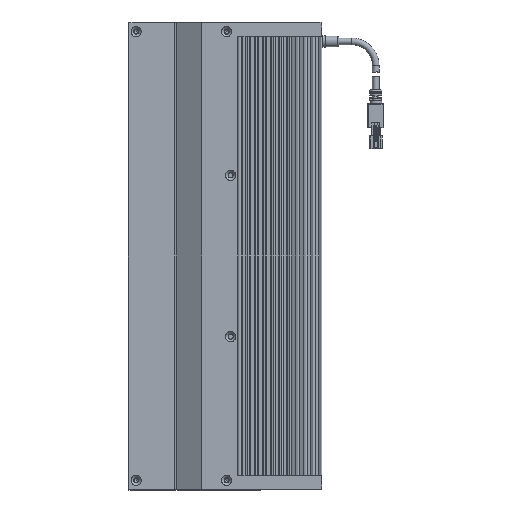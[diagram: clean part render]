
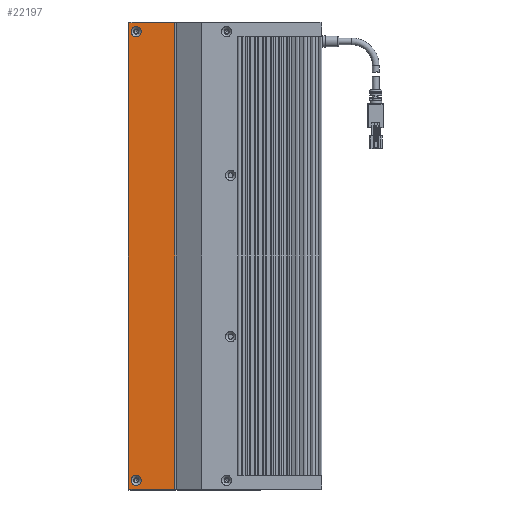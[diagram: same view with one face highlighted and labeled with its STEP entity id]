
A CAD part, left-side view. The second image highlights one B-rep face of the part: STEP entity #22197.
In plain terms, the highlighted planar face has unit normal (-1, 0, 0).
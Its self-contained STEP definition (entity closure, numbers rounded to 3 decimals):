
#766 = VECTOR ( 'NONE', #28042, 1000. ) ;
#860 = LINE ( 'NONE', #27099, #15810 ) ;
#951 = EDGE_CURVE ( 'NONE', #10646, #10646, #997, .T. ) ;
#997 = CIRCLE ( 'NONE', #29134, 3.15 ) ;
#1229 = VECTOR ( 'NONE', #17773, 1000. ) ;
#3042 = CARTESIAN_POINT ( 'NONE',  ( -15.462, 21.439, 120. ) ) ;
#3083 = DIRECTION ( 'NONE',  ( 0., 0., 1. ) ) ;
#4064 = EDGE_CURVE ( 'NONE', #33278, #25853, #20917, .T. ) ;
#4926 = CARTESIAN_POINT ( 'NONE',  ( -15.462, -7.561, 409. ) ) ;
#5255 = PLANE ( 'NONE',  #15756 ) ;
#6223 = CARTESIAN_POINT ( 'NONE',  ( -15.462, -6.987, 120. ) ) ;
#6887 = DIRECTION ( 'NONE',  ( 0., 0., -1. ) ) ;
#7382 = DIRECTION ( 'NONE',  ( -1., 0., 0. ) ) ;
#7404 = AXIS2_PLACEMENT_3D ( 'NONE', #15215, #7382, #15894 ) ;
#7712 = ORIENTED_EDGE ( 'NONE', *, *, #24320, .F. ) ;
#7810 = DIRECTION ( 'NONE',  ( 0., 0., -1. ) ) ;
#8070 = CARTESIAN_POINT ( 'NONE',  ( -15.462, 21.439, 407.5 ) ) ;
#8177 = ORIENTED_EDGE ( 'NONE', *, *, #15513, .F. ) ;
#8673 = CIRCLE ( 'NONE', #7404, 3.15 ) ;
#8956 = DIRECTION ( 'NONE',  ( 0., 0., 1. ) ) ;
#9453 = ORIENTED_EDGE ( 'NONE', *, *, #951, .F. ) ;
#10292 = CARTESIAN_POINT ( 'NONE',  ( -15.462, -7.561, 407.5 ) ) ;
#10646 = VERTEX_POINT ( 'NONE', #19926 ) ;
#10749 = ORIENTED_EDGE ( 'NONE', *, *, #32578, .F. ) ;
#10952 = LINE ( 'NONE', #20270, #1229 ) ;
#11244 = CARTESIAN_POINT ( 'NONE',  ( -15.462, 16.939, 125.5 ) ) ;
#11245 = VERTEX_POINT ( 'NONE', #6223 ) ;
#11882 = VERTEX_POINT ( 'NONE', #3042 ) ;
#12056 = EDGE_LOOP ( 'NONE', ( #9453 ) ) ;
#13017 = EDGE_LOOP ( 'NONE', ( #20872 ) ) ;
#13434 = EDGE_CURVE ( 'NONE', #31600, #31600, #8673, .T. ) ;
#14069 = CARTESIAN_POINT ( 'NONE',  ( -15.462, 21.439, 409. ) ) ;
#14253 = VECTOR ( 'NONE', #3083, 1000. ) ;
#15215 = CARTESIAN_POINT ( 'NONE',  ( -15.462, 16.939, 403.5 ) ) ;
#15513 = EDGE_CURVE ( 'NONE', #25853, #11245, #860, .T. ) ;
#15756 = AXIS2_PLACEMENT_3D ( 'NONE', #10292, #33232, #7810 ) ;
#15810 = VECTOR ( 'NONE', #6887, 1000. ) ;
#15894 = DIRECTION ( 'NONE',  ( 0., 0., 1. ) ) ;
#17773 = DIRECTION ( 'NONE',  ( 0., 1., 0. ) ) ;
#19491 = FACE_BOUND ( 'NONE', #13017, .T. ) ;
#19926 = CARTESIAN_POINT ( 'NONE',  ( -15.462, 16.939, 128.65 ) ) ;
#20270 = CARTESIAN_POINT ( 'NONE',  ( -15.462, -7.561, 120. ) ) ;
#20486 = CARTESIAN_POINT ( 'NONE',  ( -15.462, 16.939, 406.65 ) ) ;
#20872 = ORIENTED_EDGE ( 'NONE', *, *, #13434, .F. ) ;
#20917 = LINE ( 'NONE', #4926, #766 ) ;
#21886 = ORIENTED_EDGE ( 'NONE', *, *, #4064, .F. ) ;
#22197 = ADVANCED_FACE ( 'NONE', ( #31166, #19491, #24300 ), #5255, .F. ) ;
#24300 = FACE_OUTER_BOUND ( 'NONE', #30832, .T. ) ;
#24320 = EDGE_CURVE ( 'NONE', #11245, #11882, #10952, .T. ) ;
#24325 = DIRECTION ( 'NONE',  ( -1., 0., 0. ) ) ;
#25853 = VERTEX_POINT ( 'NONE', #31727 ) ;
#27099 = CARTESIAN_POINT ( 'NONE',  ( -15.462, -6.987, 407.5 ) ) ;
#28042 = DIRECTION ( 'NONE',  ( 0., -1., 0. ) ) ;
#29134 = AXIS2_PLACEMENT_3D ( 'NONE', #11244, #24325, #8956 ) ;
#30832 = EDGE_LOOP ( 'NONE', ( #10749, #7712, #8177, #21886 ) ) ;
#31166 = FACE_BOUND ( 'NONE', #12056, .T. ) ;
#31177 = LINE ( 'NONE', #8070, #14253 ) ;
#31600 = VERTEX_POINT ( 'NONE', #20486 ) ;
#31727 = CARTESIAN_POINT ( 'NONE',  ( -15.462, -6.987, 409. ) ) ;
#32578 = EDGE_CURVE ( 'NONE', #11882, #33278, #31177, .T. ) ;
#33232 = DIRECTION ( 'NONE',  ( 1., 0., 0. ) ) ;
#33278 = VERTEX_POINT ( 'NONE', #14069 ) ;
